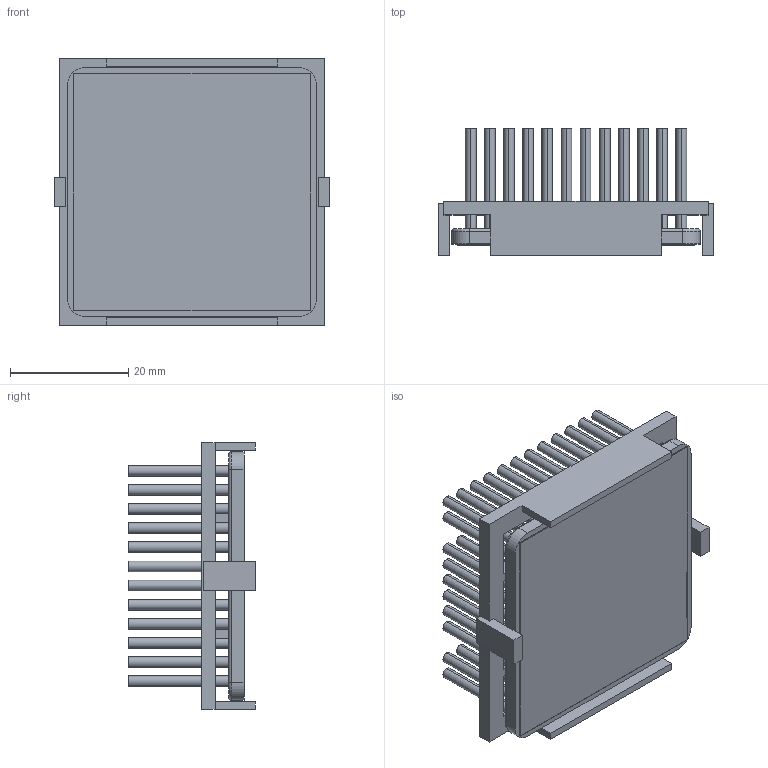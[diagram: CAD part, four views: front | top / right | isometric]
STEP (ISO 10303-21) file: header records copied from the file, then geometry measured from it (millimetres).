
FILE_DESCRIPTION (( 'STEP AP214' ), '1' );
FILE_NAME ('INM42.5002-20P-2.6BU.STEP', '2023-02-28T00:23:33', ( '' ), ( '' ), 'SwSTEP 2.0', 'SolidWorks 2020', '' );
FILE_SCHEMA (( 'AUTOMOTIVE_DESIGN' ));
Length unit declared in the file: inch
Products named in the file (1): INM42.5002-20P-2.6BU
Bounding box: 46.7 x 21.6 x 45.1 mm (x, y, z)
Volume: 12786.4 mm3; surface area: 23475.9 mm2
Topology: 3 solids, 3 shells, 486 faces, 1024 edges, 680 vertices
Faces by surface type: cylinder 280, plane 202, torus 4
Entity records: 19652 total; most frequent: DIRECTION 2562, CARTESIAN_POINT 2191, ORIENTED_EDGE 2048, AXIS2_PLACEMENT_3D 1051, EDGE_CURVE 1024, VERTEX_POINT 680, EDGE_LOOP 624, CIRCLE 564
